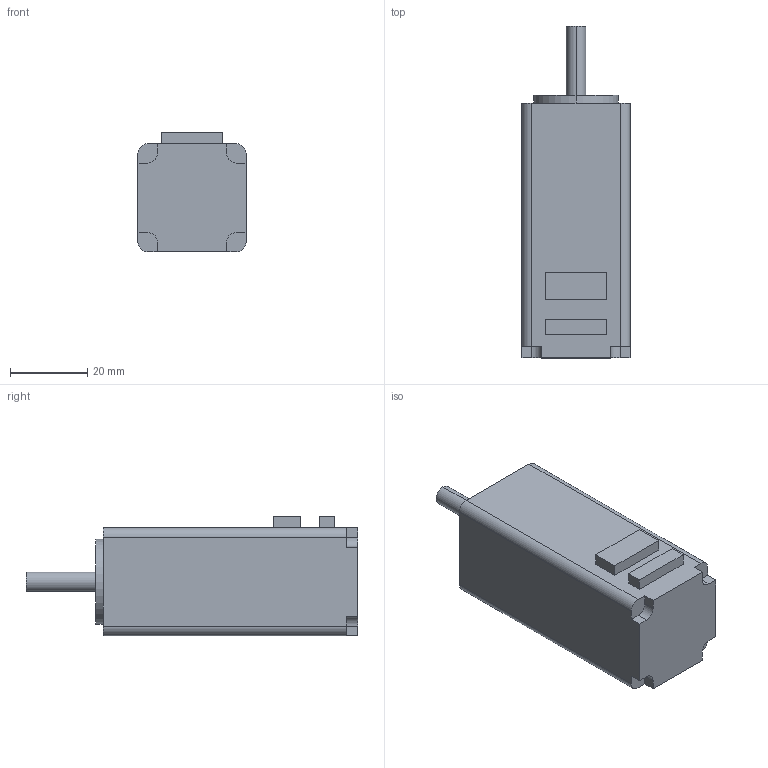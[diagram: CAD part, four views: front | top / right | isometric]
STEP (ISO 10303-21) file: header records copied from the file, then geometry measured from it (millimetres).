
FILE_DESCRIPTION (( 'STEP AP214' ), '1' );
FILE_NAME ('28HSM51S403G0520-001.STEP', '2019-10-15T07:26:00', ( 'wimxt.com' ), ( 'wimxt.com' ), 'SwSTEP 2.0', 'SolidWorks 2014', '' );
FILE_SCHEMA (( 'AUTOMOTIVE_DESIGN' ));
Length unit declared in the file: millimetre
Products named in the file (1): 28HSM51S403G0520-001
Bounding box: 28 x 86 x 31 mm (x, y, z)
Volume: 52685.3 mm3; surface area: 9470.6 mm2
Topology: 1 solids, 1 shells, 54 faces, 132 edges, 88 vertices
Faces by surface type: plane 34, cylinder 20
Entity records: 1630 total; most frequent: DIRECTION 282, CARTESIAN_POINT 275, ORIENTED_EDGE 264, EDGE_CURVE 132, AXIS2_PLACEMENT_3D 95, VECTOR 92, LINE 92, VERTEX_POINT 88
